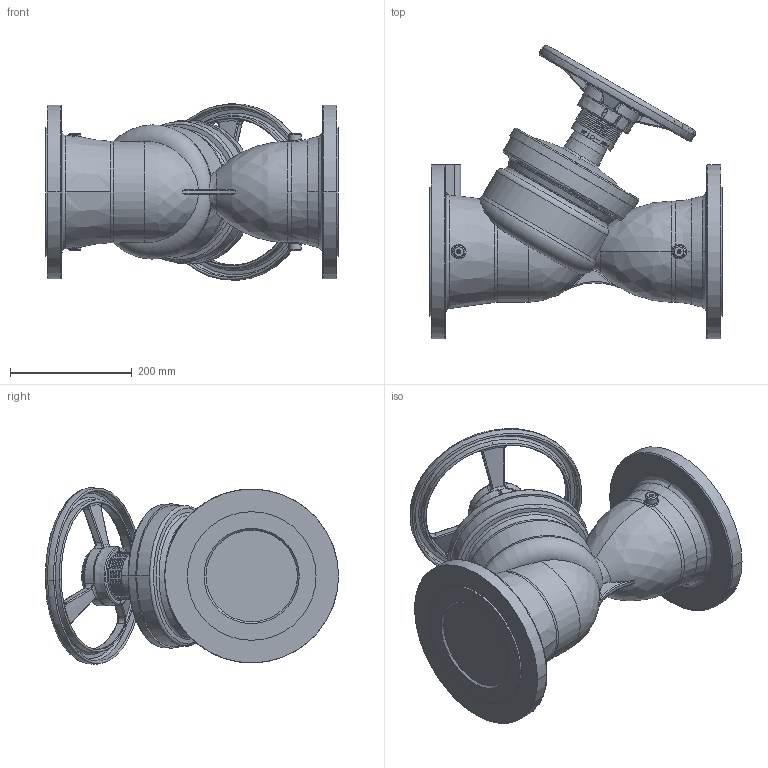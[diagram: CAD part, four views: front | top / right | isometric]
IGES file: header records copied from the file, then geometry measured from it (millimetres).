
Global section: file name: No Iges File Name specified; native system: AutoDesk Inventor R12.0; preprocessor: AutoDesk Inventor Iges Exporter R12.0; date: 20110118.120431; units: millimetre
Bounding box: 480 x 480.68 x 289.42 mm (x, y, z)
Surface area: 1123918 mm2 (no closed solid volume)
Topology: 0 solids, 1 shells, 977 faces, 2609 edges, 1669 vertices
Faces by surface type: plane 330, bspline 317, revolution 134, cylinder 101, torus 62, cone 33
